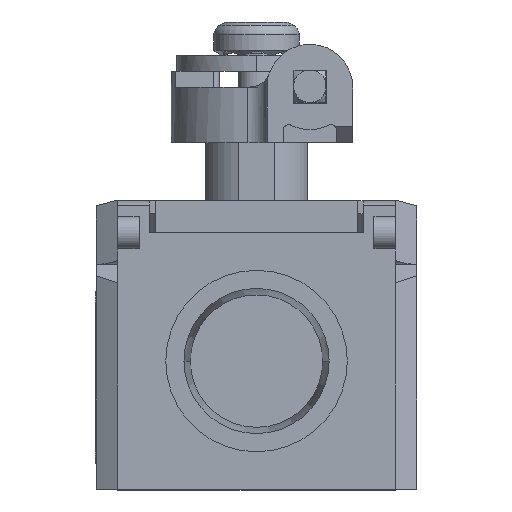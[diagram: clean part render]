
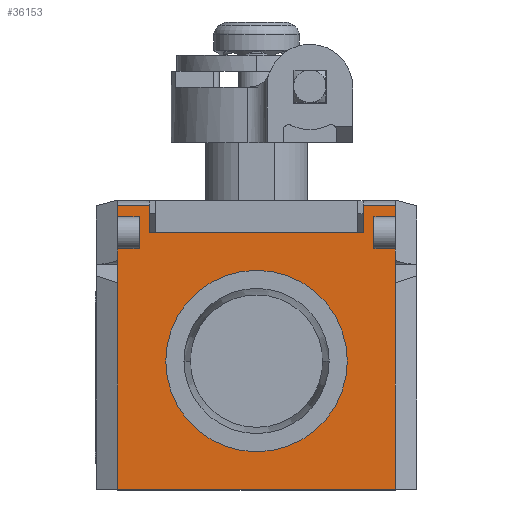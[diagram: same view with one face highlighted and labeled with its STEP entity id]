
A CAD part, top view. The second image highlights one B-rep face of the part: STEP entity #36153.
In plain terms, the highlighted planar face has unit normal (0, 0, 1).
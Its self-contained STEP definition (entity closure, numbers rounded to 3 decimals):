
#6591=DIRECTION('',(1.,0.,0.));
#6592=VECTOR('',#6591,26.);
#6593=CARTESIAN_POINT('',(-13.,0.,45.));
#6594=LINE('',#6593,#6592);
#7882=DIRECTION('',(0.,1.,0.));
#7883=VECTOR('',#7882,2.078);
#7884=CARTESIAN_POINT('',(13.,19.323,45.));
#7885=LINE('',#7884,#7883);
#7904=DIRECTION('',(-1.,0.,0.));
#7905=VECTOR('',#7904,2.);
#7906=CARTESIAN_POINT('',(13.,25.5,45.));
#7907=LINE('',#7906,#7905);
#7911=DIRECTION('',(0.,-1.,0.));
#7912=VECTOR('',#7911,1.5);
#7913=CARTESIAN_POINT('',(11.,25.5,45.));
#7914=LINE('',#7913,#7912);
#7918=DIRECTION('',(0.,-1.,0.));
#7919=VECTOR('',#7918,1.5);
#7920=CARTESIAN_POINT('',(11.,24.,45.));
#7921=LINE('',#7920,#7919);
#7925=DIRECTION('',(-1.,0.,0.));
#7926=VECTOR('',#7925,2.);
#7927=CARTESIAN_POINT('',(13.,22.5,45.));
#7928=LINE('',#7927,#7926);
#7932=DIRECTION('',(0.,-1.,0.));
#7933=VECTOR('',#7932,1.098);
#7934=CARTESIAN_POINT('',(13.,22.5,45.));
#7935=LINE('',#7934,#7933);
#7939=DIRECTION('',(0.,1.,0.));
#7940=VECTOR('',#7939,19.323);
#7941=CARTESIAN_POINT('',(13.,0.,45.));
#7942=LINE('',#7941,#7940);
#7946=DIRECTION('',(0.,1.,0.));
#7947=VECTOR('',#7946,19.323);
#7948=CARTESIAN_POINT('',(-13.,0.,45.));
#7949=LINE('',#7948,#7947);
#7953=DIRECTION('',(0.,-1.,0.));
#7954=VECTOR('',#7953,1.098);
#7955=CARTESIAN_POINT('',(-13.,22.5,45.));
#7956=LINE('',#7955,#7954);
#7960=DIRECTION('',(1.,0.,0.));
#7961=VECTOR('',#7960,2.);
#7962=CARTESIAN_POINT('',(-13.,22.5,45.));
#7963=LINE('',#7962,#7961);
#7967=DIRECTION('',(0.,-1.,0.));
#7968=VECTOR('',#7967,1.5);
#7969=CARTESIAN_POINT('',(-11.,24.,45.));
#7970=LINE('',#7969,#7968);
#7974=DIRECTION('',(0.,-1.,0.));
#7975=VECTOR('',#7974,1.5);
#7976=CARTESIAN_POINT('',(-11.,25.5,45.));
#7977=LINE('',#7976,#7975);
#7981=DIRECTION('',(1.,0.,0.));
#7982=VECTOR('',#7981,2.);
#7983=CARTESIAN_POINT('',(-13.,25.5,45.));
#7984=LINE('',#7983,#7982);
#7988=DIRECTION('',(0.,-1.,0.));
#7989=VECTOR('',#7988,1.098);
#7990=CARTESIAN_POINT('',(-13.,26.598,45.));
#7991=LINE('',#7990,#7989);
#7995=DIRECTION('',(1.,0.,0.));
#7996=VECTOR('',#7995,3.);
#7997=CARTESIAN_POINT('',(-13.,26.598,45.));
#7998=LINE('',#7997,#7996);
#8002=DIRECTION('',(0.,-1.,0.));
#8003=VECTOR('',#8002,2.598);
#8004=CARTESIAN_POINT('',(-10.,26.598,45.));
#8005=LINE('',#8004,#8003);
#8009=DIRECTION('',(1.,0.,0.));
#8010=VECTOR('',#8009,20.);
#8011=CARTESIAN_POINT('',(-10.,24.,45.));
#8012=LINE('',#8011,#8010);
#8016=DIRECTION('',(0.,-1.,0.));
#8017=VECTOR('',#8016,2.598);
#8018=CARTESIAN_POINT('',(10.,26.598,45.));
#8019=LINE('',#8018,#8017);
#8023=DIRECTION('',(1.,0.,0.));
#8024=VECTOR('',#8023,3.);
#8025=CARTESIAN_POINT('',(10.,26.598,45.));
#8026=LINE('',#8025,#8024);
#8030=DIRECTION('',(0.,-1.,0.));
#8031=VECTOR('',#8030,1.098);
#8032=CARTESIAN_POINT('',(13.,26.598,45.));
#8033=LINE('',#8032,#8031);
#8037=CARTESIAN_POINT('',(0.,12.,45.));
#8038=DIRECTION('',(0.,0.,1.));
#8039=DIRECTION('',(0.,1.,0.));
#8040=AXIS2_PLACEMENT_3D('',#8037,#8038,#8039);
#8045=CARTESIAN_POINT('',(0.,12.,45.));
#8046=DIRECTION('',(0.,0.,1.));
#8047=DIRECTION('',(0.,-1.,0.));
#8048=AXIS2_PLACEMENT_3D('',#8045,#8046,#8047);
#8417=DIRECTION('',(0.,-1.,0.));
#8418=VECTOR('',#8417,2.078);
#8419=CARTESIAN_POINT('',(-13.,21.402,45.));
#8420=LINE('',#8419,#8418);
#23206=CARTESIAN_POINT('',(13.,0.,45.));
#23208=VERTEX_POINT('',#23206);
#23209=CARTESIAN_POINT('',(-13.,0.,45.));
#23211=VERTEX_POINT('',#23209);
#23222=CARTESIAN_POINT('',(13.,19.323,45.));
#23224=VERTEX_POINT('',#23222);
#23225=CARTESIAN_POINT('',(-13.,19.323,45.));
#23227=VERTEX_POINT('',#23225);
#23229=CARTESIAN_POINT('',(-10.,26.598,45.));
#23230=CARTESIAN_POINT('',(-10.,24.,45.));
#23231=VERTEX_POINT('',#23229);
#23232=VERTEX_POINT('',#23230);
#23233=CARTESIAN_POINT('',(10.,24.,45.));
#23234=VERTEX_POINT('',#23233);
#23235=CARTESIAN_POINT('',(10.,26.598,45.));
#23236=VERTEX_POINT('',#23235);
#25327=CARTESIAN_POINT('',(0.,20.5,45.));
#25328=CARTESIAN_POINT('',(0.,3.5,45.));
#25329=VERTEX_POINT('',#25327);
#25330=VERTEX_POINT('',#25328);
#26059=CARTESIAN_POINT('',(13.,26.598,45.));
#26060=CARTESIAN_POINT('',(13.,25.5,45.));
#26061=VERTEX_POINT('',#26059);
#26062=VERTEX_POINT('',#26060);
#26063=CARTESIAN_POINT('',(13.,22.5,45.));
#26064=CARTESIAN_POINT('',(13.,21.402,45.));
#26065=VERTEX_POINT('',#26063);
#26066=VERTEX_POINT('',#26064);
#26067=CARTESIAN_POINT('',(-13.,26.598,45.));
#26068=CARTESIAN_POINT('',(-13.,25.5,45.));
#26069=VERTEX_POINT('',#26067);
#26070=VERTEX_POINT('',#26068);
#26071=CARTESIAN_POINT('',(-13.,22.5,45.));
#26072=CARTESIAN_POINT('',(-13.,21.402,45.));
#26073=VERTEX_POINT('',#26071);
#26074=VERTEX_POINT('',#26072);
#26140=CARTESIAN_POINT('',(11.,24.,45.));
#26142=VERTEX_POINT('',#26140);
#26150=CARTESIAN_POINT('',(-11.,24.,45.));
#26152=VERTEX_POINT('',#26150);
#26155=CARTESIAN_POINT('',(11.,25.5,45.));
#26156=VERTEX_POINT('',#26155);
#26157=CARTESIAN_POINT('',(11.,22.5,45.));
#26158=VERTEX_POINT('',#26157);
#26159=CARTESIAN_POINT('',(-11.,25.5,45.));
#26160=VERTEX_POINT('',#26159);
#26161=CARTESIAN_POINT('',(-11.,22.5,45.));
#26162=VERTEX_POINT('',#26161);
#36098=CARTESIAN_POINT('',(-15.,0.,45.));
#36099=DIRECTION('',(0.,0.,1.));
#36100=DIRECTION('',(1.,0.,0.));
#36101=AXIS2_PLACEMENT_3D('',#36098,#36099,#36100);
#36102=PLANE('',#36101);
#36104=ORIENTED_EDGE('',*,*,#36103,.T.);
#36106=ORIENTED_EDGE('',*,*,#36105,.T.);
#36108=ORIENTED_EDGE('',*,*,#36107,.T.);
#36110=ORIENTED_EDGE('',*,*,#36109,.F.);
#36112=ORIENTED_EDGE('',*,*,#36111,.T.);
#36113=ORIENTED_EDGE('',*,*,#36082,.F.);
#36115=ORIENTED_EDGE('',*,*,#36114,.F.);
#36116=ORIENTED_EDGE('',*,*,#34866,.F.);
#36118=ORIENTED_EDGE('',*,*,#36117,.T.);
#36120=ORIENTED_EDGE('',*,*,#36119,.F.);
#36122=ORIENTED_EDGE('',*,*,#36121,.F.);
#36124=ORIENTED_EDGE('',*,*,#36123,.T.);
#36126=ORIENTED_EDGE('',*,*,#36125,.F.);
#36128=ORIENTED_EDGE('',*,*,#36127,.F.);
#36130=ORIENTED_EDGE('',*,*,#36129,.F.);
#36132=ORIENTED_EDGE('',*,*,#36131,.F.);
#36134=ORIENTED_EDGE('',*,*,#36133,.T.);
#36136=ORIENTED_EDGE('',*,*,#36135,.T.);
#36138=ORIENTED_EDGE('',*,*,#36137,.T.);
#36140=ORIENTED_EDGE('',*,*,#36139,.F.);
#36142=ORIENTED_EDGE('',*,*,#36141,.T.);
#36144=ORIENTED_EDGE('',*,*,#36143,.T.);
#36145=EDGE_LOOP('',(#36104,#36106,#36108,#36110,#36112,#36113,#36115,#36116,
#36118,#36120,#36122,#36124,#36126,#36128,#36130,#36132,#36134,#36136,#36138,
#36140,#36142,#36144));
#36146=FACE_OUTER_BOUND('',#36145,.F.);
#36148=ORIENTED_EDGE('',*,*,#36147,.T.);
#36150=ORIENTED_EDGE('',*,*,#36149,.T.);
#36151=EDGE_LOOP('',(#36148,#36150));
#36152=FACE_BOUND('',#36151,.F.);
#8041=CIRCLE('',#8040,8.5);
#8049=CIRCLE('',#8048,8.5);
#34866=EDGE_CURVE('',#23211,#23208,#6594,.T.);
#36082=EDGE_CURVE('',#23224,#26066,#7885,.T.);
#36103=EDGE_CURVE('',#26062,#26156,#7907,.T.);
#36105=EDGE_CURVE('',#26156,#26142,#7914,.T.);
#36107=EDGE_CURVE('',#26142,#26158,#7921,.T.);
#36109=EDGE_CURVE('',#26065,#26158,#7928,.T.);
#36111=EDGE_CURVE('',#26065,#26066,#7935,.T.);
#36114=EDGE_CURVE('',#23208,#23224,#7942,.T.);
#36117=EDGE_CURVE('',#23211,#23227,#7949,.T.);
#36119=EDGE_CURVE('',#26074,#23227,#8420,.T.);
#36121=EDGE_CURVE('',#26073,#26074,#7956,.T.);
#36123=EDGE_CURVE('',#26073,#26162,#7963,.T.);
#36125=EDGE_CURVE('',#26152,#26162,#7970,.T.);
#36127=EDGE_CURVE('',#26160,#26152,#7977,.T.);
#36129=EDGE_CURVE('',#26070,#26160,#7984,.T.);
#36131=EDGE_CURVE('',#26069,#26070,#7991,.T.);
#36133=EDGE_CURVE('',#26069,#23231,#7998,.T.);
#36135=EDGE_CURVE('',#23231,#23232,#8005,.T.);
#36137=EDGE_CURVE('',#23232,#23234,#8012,.T.);
#36139=EDGE_CURVE('',#23236,#23234,#8019,.T.);
#36141=EDGE_CURVE('',#23236,#26061,#8026,.T.);
#36143=EDGE_CURVE('',#26061,#26062,#8033,.T.);
#36147=EDGE_CURVE('',#25329,#25330,#8041,.T.);
#36149=EDGE_CURVE('',#25330,#25329,#8049,.T.);
#36153=ADVANCED_FACE('',(#36146,#36152),#36102,.T.);
